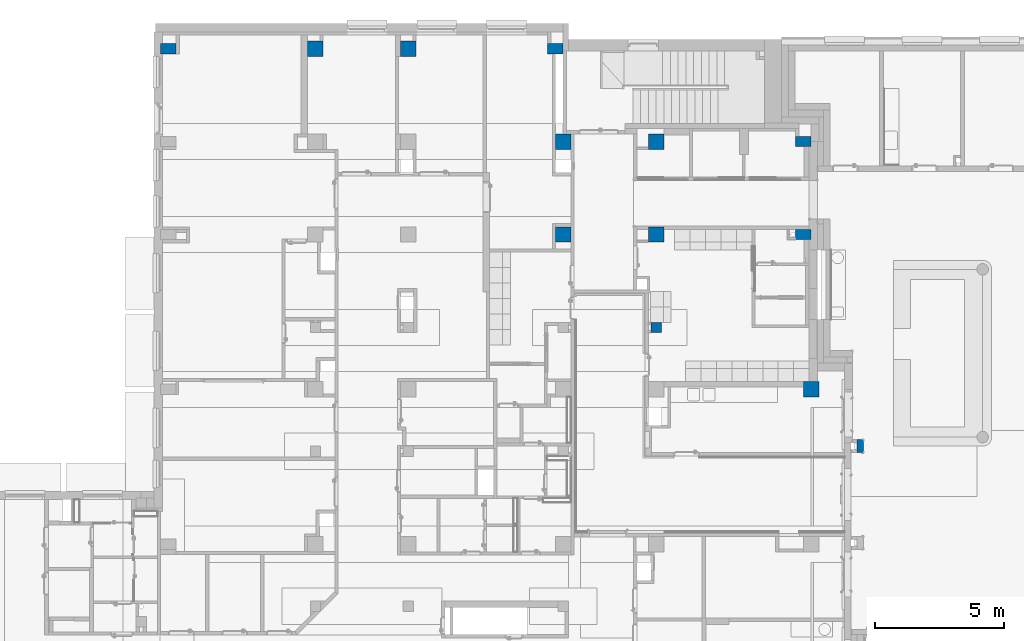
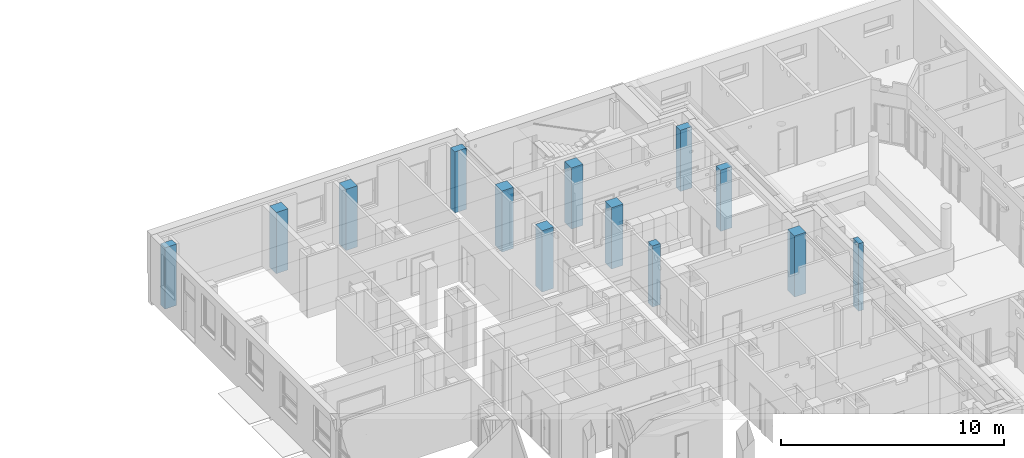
# One storey, part 2 of 140: 13 columns.
"""IFC4 building model written with IfcOpenShell, lengths in metres."""

from ifc_helpers import new_model, entity, si_unit, converted_unit, derived_unit, frame, frame_2d, origin, origin_with_axes, place, context, subcontext, project, spatial, rectangle, extrude, material, element, save


model = new_model("IFC4")

# Units and contexts
model_context = context("Model", 3, precision=1e-05, world=origin())
body_context = subcontext(model_context, "Body", "Model", "MODEL_VIEW")
ifc_project = project(units=[si_unit("LENGTHUNIT", "METRE"), si_unit("AREAUNIT", "SQUARE_METRE"), si_unit("VOLUMEUNIT", "CUBIC_METRE"), si_unit("MASSUNIT", "GRAM", prefix="KILO"), converted_unit("PLANEANGLEUNIT", "DEGREE", entity("IfcPlaneAngleMeasure", 0.0174532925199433), si_unit("PLANEANGLEUNIT", "RADIAN"), dimensions=[0, 0, 0, 0, 0, 0, 0]), derived_unit("THERMALTRANSMITTANCEUNIT", [(si_unit("POWERUNIT", "WATT"), 1), (si_unit("THERMODYNAMICTEMPERATUREUNIT", "KELVIN"), -1), (si_unit("LENGTHUNIT", "METRE"), -2)]), derived_unit("VOLUMETRICFLOWRATEUNIT", [(si_unit("LENGTHUNIT", "METRE"), 3), (converted_unit("TIMEUNIT", "hour", entity("IfcTimeMeasure", 3600.0), si_unit("TIMEUNIT", "SECOND"), dimensions=[0, 0, 1, 0, 0, 0, 0]), -1), (si_unit("LENGTHUNIT", "METRE"), -1)])], contexts=[model_context])

# Site, building, storey
site_placement = place(None, origin())
site = spatial("IfcSite", under=ifc_project, at=site_placement, Name="3. ASŘ", CompositionType="ELEMENT")
building_placement = place(site_placement, origin())
building = spatial("IfcBuilding", under=site, at=building_placement, Name="Pavilon C", CompositionType="ELEMENT")
storey_placement = place(building_placement, origin())
storey = spatial("IfcBuildingStorey", under=building, at=storey_placement, Name="Půdorys 1.NP", CompositionType="ELEMENT", Elevation=0.0)

# Columns
ifc_material_1 = material(Name="ZELEZOBETONOVÁ KCE")
column_1_placement = place(storey_placement, frame((34.65, 32.7, -0.1)))
element("IfcColumn", 1, at=column_1_placement, inside=storey, material=ifc_material_1, PredefinedType="COLUMN", context=body_context, shape_type="SweptSolid", body=[
    extrude(rectangle(XDim=0.6, YDim=0.6, at=frame_2d((-0.3, -0.3), x_axis=(-1.0, 0.0))), origin_with_axes(), (0.0, 0.0, 1.0), 3.35),
])
ifc_material_2 = material(Name="ZELEZOBETONOVÁ KCE")
column_2_placement = place(storey_placement, frame((31.05, 32.7, -0.1)))
element("IfcColumn", 2, at=column_2_placement, inside=storey, material=ifc_material_2, PredefinedType="COLUMN", context=body_context, shape_type="SweptSolid", body=[
    extrude(rectangle(XDim=0.6, YDim=0.6, at=frame_2d((-0.3, -0.3), x_axis=(-1.0, 0.0))), origin_with_axes(), (0.0, 0.0, 1.0), 3.35),
])
ifc_material_3 = material(Name="ZELEZOBETONOVÁ KCE")
column_3_placement = place(storey_placement, frame((44.15, 21.8, -0.1)))
element("IfcColumn", 3, at=column_3_placement, inside=storey, material=ifc_material_3, PredefinedType="COLUMN", context=body_context, shape_type="SweptSolid", body=[
    extrude(rectangle(XDim=0.4, YDim=0.4, at=frame_2d((-0.2, -0.2), x_axis=(-1.0, 0.0))), origin_with_axes(), (0.0, 0.0, 1.0), 3.35),
])
ifc_material_4 = material(Name="ZELEZOBETONOVÁ KCE")
column_4_placement = place(storey_placement, frame((44.25, 25.5, -0.1)))
element("IfcColumn", 4, at=column_4_placement, inside=storey, material=ifc_material_4, PredefinedType="COLUMN", context=body_context, shape_type="SweptSolid", body=[
    extrude(rectangle(XDim=0.6, YDim=0.6, at=frame_2d((-0.3, -0.3), x_axis=(-1.0, 0.0))), origin_with_axes(), (0.0, 0.0, 1.0), 3.35),
])
ifc_material_5 = material(Name="ZELEZOBETONOVÁ KCE")
column_5_placement = place(storey_placement, frame((49.95, 25.4, -0.1)))
element("IfcColumn", 5, at=column_5_placement, inside=storey, material=ifc_material_5, PredefinedType="COLUMN", context=body_context, shape_type="SweptSolid", body=[
    extrude(rectangle(XDim=0.6, YDim=0.4, at=frame_2d((-0.3, -0.2), x_axis=(-1.0, 0.0))), origin_with_axes(), (0.0, 0.0, 1.0), 3.35),
])
ifc_material_6 = material(Name="ZELEZOBETONOVÁ KCE")
column_6_placement = place(storey_placement, frame((49.95, 29.0, -0.1)))
element("IfcColumn", 6, at=column_6_placement, inside=storey, material=ifc_material_6, PredefinedType="COLUMN", context=body_context, shape_type="SweptSolid", body=[
    extrude(rectangle(XDim=0.6, YDim=0.4, at=frame_2d((-0.3, -0.2), x_axis=(-1.0, 0.0))), origin_with_axes(), (0.0, 0.0, 1.0), 3.35),
])
ifc_material_7 = material(Name="ZELEZOBETONOVÁ KCE")
column_7_placement = place(storey_placement, frame((44.25, 29.1, -0.1)))
element("IfcColumn", 7, at=column_7_placement, inside=storey, material=ifc_material_7, PredefinedType="COLUMN", context=body_context, shape_type="SweptSolid", body=[
    extrude(rectangle(XDim=0.6, YDim=0.6, at=frame_2d((-0.3, -0.3), x_axis=(-1.0, 0.0))), origin_with_axes(), (0.0, 0.0, 1.0), 3.35),
])
ifc_material_8 = material(Name="ZELEZOBETONOVÁ KCE")
column_8_placement = place(storey_placement, frame((50.25, 19.5, -0.1)))
element("IfcColumn", 8, at=column_8_placement, inside=storey, material=ifc_material_8, PredefinedType="COLUMN", context=body_context, shape_type="SweptSolid", body=[
    extrude(rectangle(XDim=0.6, YDim=0.6, at=frame_2d((-0.3, -0.3), x_axis=(-1.0, 0.0))), origin_with_axes(), (0.0, 0.0, 1.0), 3.35),
])
ifc_material_9 = material(Name="ZELEZOBETONOVÁ KCE")
column_9_placement = place(storey_placement, frame((40.35, 32.6, -0.1)))
element("IfcColumn", 9, at=column_9_placement, inside=storey, material=ifc_material_9, PredefinedType="COLUMN", context=body_context, shape_type="SweptSolid", body=[
    extrude(rectangle(XDim=0.599999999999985, YDim=0.4, at=frame_2d((-0.299999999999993, -0.2), x_axis=(-1.0, 0.0))), origin_with_axes(), (0.0, 0.0, 1.0), 3.35),
])
ifc_material_10 = material(Name="ZELEZOBETONOVÁ KCE")
column_10_placement = place(storey_placement, frame((25.35, 32.6, -0.1)))
element("IfcColumn", 10, at=column_10_placement, inside=storey, material=ifc_material_10, PredefinedType="COLUMN", context=body_context, shape_type="SweptSolid", body=[
    extrude(rectangle(XDim=0.599999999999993, YDim=0.4, at=frame_2d((-0.299999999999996, -0.2), x_axis=(-1.0, 0.0))), origin_with_axes(), (0.0, 0.0, 1.0), 3.35),
])
ifc_material_11 = material(Name="ZELEZOBETONOVÁ KCE")
column_11_placement = place(storey_placement, frame((40.65, 29.1, -0.1)))
element("IfcColumn", 11, at=column_11_placement, inside=storey, material=ifc_material_11, PredefinedType="COLUMN", context=body_context, shape_type="SweptSolid", body=[
    extrude(rectangle(XDim=0.6, YDim=0.6, at=frame_2d((-0.3, -0.3), x_axis=(-1.0, 0.0))), origin_with_axes(), (0.0, 0.0, 1.0), 3.35),
])
ifc_material_12 = material(Name="ZELEZOBETONOVÁ KCE")
column_12_placement = place(storey_placement, frame((40.65, 25.5, -0.1)))
element("IfcColumn", 12, at=column_12_placement, inside=storey, material=ifc_material_12, PredefinedType="COLUMN", context=body_context, shape_type="SweptSolid", body=[
    extrude(rectangle(XDim=0.6, YDim=0.6, at=frame_2d((-0.3, -0.3), x_axis=(-1.0, 0.0))), origin_with_axes(), (0.0, 0.0, 1.0), 3.35),
])
ifc_material_13 = material(Name="ZELEZOBETONOVÁ KCE")
column_13_placement = place(storey_placement, frame((51.73, 17.25, -0.3)))
element("IfcColumn", 13, at=column_13_placement, inside=storey, material=ifc_material_13, PredefinedType="COLUMN", context=body_context, shape_type="SweptSolid", body=[
    extrude(rectangle(XDim=0.5, YDim=0.25, at=frame_2d((0.125, -0.25), x_axis=(0.0, -1.0))), origin_with_axes(), (0.0, 0.0, 1.0), 3.7),
])

save(model, "model.ifc")
